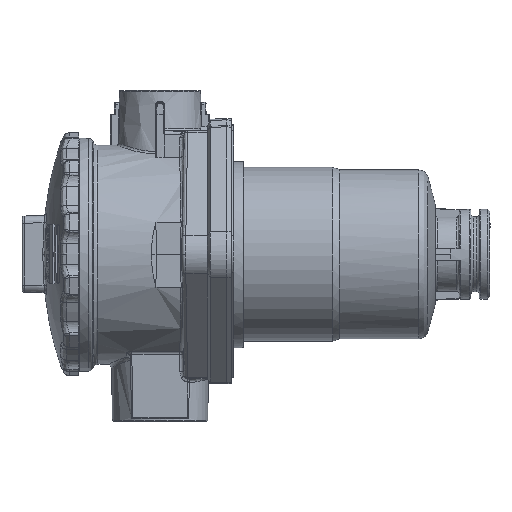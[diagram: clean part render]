
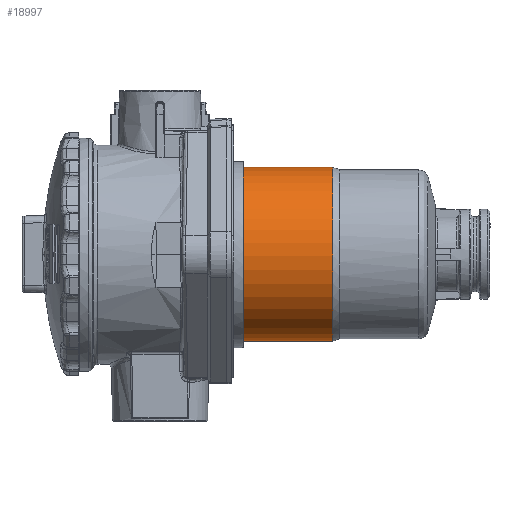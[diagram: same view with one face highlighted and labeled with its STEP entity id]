
A CAD part, top view. The second image highlights one B-rep face of the part: STEP entity #18997.
In plain terms, the highlighted free-form (B-spline) face has degree [2, 1] with [7, 2] control points.
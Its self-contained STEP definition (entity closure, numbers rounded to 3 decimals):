
#18918=CARTESIAN_POINT('V974',(106.6,
   -36.5,0.));
#18919=VERTEX_POINT('V974',#18918);
#18925=CARTESIAN_POINT('E1619',(106.6,
   -36.5,0.));
#18926=CARTESIAN_POINT('E1619',(106.6,
   -36.5,-63.22));
#18927=CARTESIAN_POINT('E1619',(106.6,
   18.25,-31.61));
#18928=CARTESIAN_POINT('E1619',(106.6,73.0,
   0.));
#18929=CARTESIAN_POINT('E1619',(106.6,
   18.25,31.61));
#18930=CARTESIAN_POINT('E1619',(106.6,
   -36.5,63.22));
#18931=CARTESIAN_POINT('E1619',(106.6,
   -36.5,0.));
#18939=(BOUNDED_CURVE()B_SPLINE_CURVE(2,(#18925,#18926,#18927,
   #18928,#18929,#18930,#18931),.CIRCULAR_ARC.,.T.,.U.)
   B_SPLINE_CURVE_WITH_KNOTS((3,2,2,3),(0.0,42.653,
   85.305,127.958),.UNSPECIFIED.)CURVE()
   GEOMETRIC_REPRESENTATION_ITEM()RATIONAL_B_SPLINE_CURVE((1.0,
   0.5,1.0,0.5,1.0,0.5,1.0)
   )REPRESENTATION_ITEM('E1619'));
#18940=EDGE_CURVE('E1619',#18919,#18919,#18939,.T.);
#18947=CARTESIAN_POINT('F629',(46.6,
   -36.5,0.));
#18948=CARTESIAN_POINT('F629',(46.6,
   -36.5,-63.22));
#18949=CARTESIAN_POINT('F629',(46.6,18.25,
   -31.61));
#18950=CARTESIAN_POINT('F629',(46.6,73.0,
   0.));
#18951=CARTESIAN_POINT('F629',(46.6,18.25,
   31.61));
#18952=CARTESIAN_POINT('F629',(46.6,
   -36.5,63.22));
#18953=CARTESIAN_POINT('F629',(46.6,
   -36.5,0.));
#18954=CARTESIAN_POINT('F629',(106.6,
   -36.5,0.));
#18955=CARTESIAN_POINT('F629',(106.6,
   -36.5,-63.22));
#18956=CARTESIAN_POINT('F629',(106.6,
   18.25,-31.61));
#18957=CARTESIAN_POINT('F629',(106.6,73.0,
   0.));
#18958=CARTESIAN_POINT('F629',(106.6,
   18.25,31.61));
#18959=CARTESIAN_POINT('F629',(106.6,
   -36.5,63.22));
#18960=CARTESIAN_POINT('F629',(106.6,
   -36.5,0.));
#18968=(BOUNDED_SURFACE()B_SPLINE_SURFACE(2,1,((#18947,#18954),(
   #18948,#18955),(#18949,#18956),(#18950,#18957),(#18951,
   #18958),(#18952,#18959),(#18953,#18960)),.CYLINDRICAL_SURF.,
   .T.,.F.,.U.)B_SPLINE_SURFACE_WITH_KNOTS((3,2,2,3),(2,2),(0.0,
   2.107,4.215,6.322),(0.0,1.0),
   .UNSPECIFIED.)GEOMETRIC_REPRESENTATION_ITEM()
   RATIONAL_B_SPLINE_SURFACE(((1.0,1.0),(0.5,
   0.5),(1.0,1.0),(0.5,
   0.5),(1.0,1.0),(0.5,
   0.5),(1.0,1.0)))REPRESENTATION_ITEM('F629')
   SURFACE());
#18969=CARTESIAN_POINT('V978',(69.,
   -36.5,0.));
#18970=VERTEX_POINT('V978',#18969);
#18971=CARTESIAN_POINT('E1627',(69.,
   -36.5,0.));
#18972=CARTESIAN_POINT('E1627',(69.,
   -36.5,-63.22));
#18973=CARTESIAN_POINT('E1627',(69.,
   18.25,-31.61));
#18974=CARTESIAN_POINT('E1627',(69.,73.0,
   0.));
#18975=CARTESIAN_POINT('E1627',(69.,
   18.25,31.61));
#18976=CARTESIAN_POINT('E1627',(69.,
   -36.5,63.22));
#18977=CARTESIAN_POINT('E1627',(69.,
   -36.5,0.));
#18985=(BOUNDED_CURVE()B_SPLINE_CURVE(2,(#18971,#18972,#18973,
   #18974,#18975,#18976,#18977),.CIRCULAR_ARC.,.T.,.U.)
   B_SPLINE_CURVE_WITH_KNOTS((3,2,2,3),(0.0,0.333,
   0.667,1.0),.UNSPECIFIED.)CURVE()
   GEOMETRIC_REPRESENTATION_ITEM()RATIONAL_B_SPLINE_CURVE((1.0,
   0.5,1.0,0.5,1.0,0.5,1.0)
   )REPRESENTATION_ITEM('E1627'));
#18986=EDGE_CURVE('E1627',#18970,#18970,#18985,.T.);
#18987=ORIENTED_EDGE('E1627',*,*,#18986,.T.);
#18988=CARTESIAN_POINT('E1628',(106.6,
   -36.5,0.0));
#18989=CARTESIAN_POINT('E1628',(69.,
   -36.5,0.0));
#18990=B_SPLINE_CURVE_WITH_KNOTS('E1628',1,(#18988,#18989),
   .POLYLINE_FORM.,.F.,.U.,(2,2),(0.0,0.627),
   .UNSPECIFIED.);
#18991=EDGE_CURVE('E1628',#18919,#18970,#18990,.T.);
#18992=ORIENTED_EDGE('E1628',*,*,#18991,.F.);
#18993=ORIENTED_EDGE('E1619',*,*,#18940,.F.);
#18994=ORIENTED_EDGE('E1628',*,*,#18991,.T.);
#18995=EDGE_LOOP('F629',(#18987,#18992,#18993,#18994));
#18996=FACE_OUTER_BOUND('F629',#18995,.T.);
#18997=ADVANCED_FACE('F629',(#18996),#18968,.T.);
